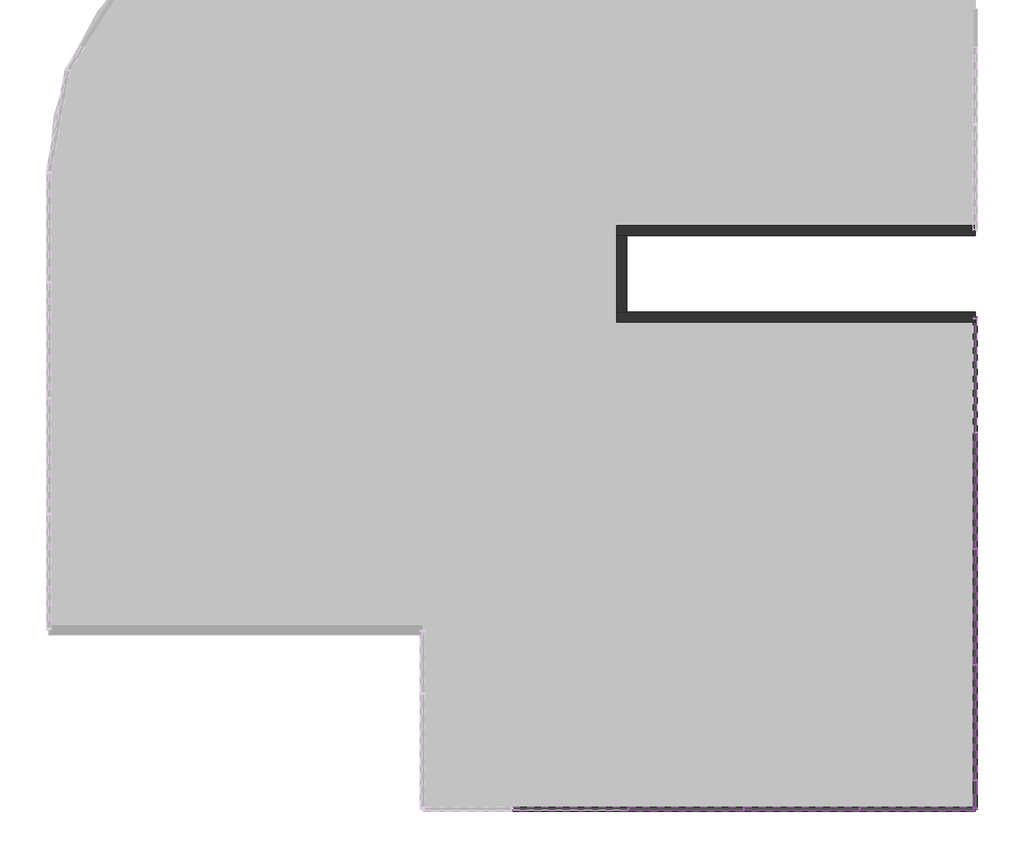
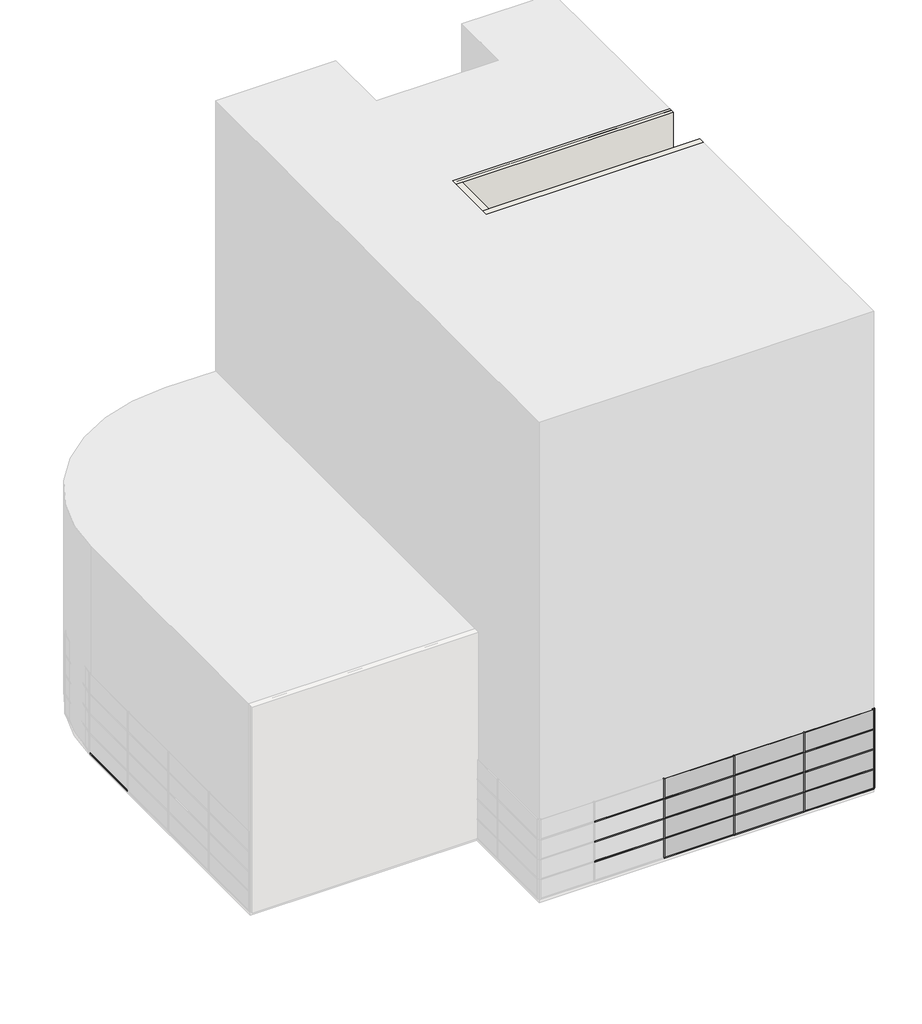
# One storey, part 2 of 4: 75 members, 32 plates, 3 walls.
"""IFC4 building model written with IfcOpenShell, lengths in millimetres."""

from ifc_helpers import new_model, si_unit, origin, origin_with_axes, place, context, project, spatial, polyline, outline, extrude, faceted_brep, transform, mapped, element, save
from components import rectangular_mullion_50_x_150mm_d99dc9be, rectangular_mullion_50_x_150mm_182bfbd5, rectangular_mullion_50_x_150mm_402ab136, rectangular_mullion_50_x_150mm_6588f46c, rectangular_mullion_50_x_150mm_a037c29c, rectangular_mullion_50_x_150mm_c2546fd4, rectangular_mullion_50_x_150mm_116cff39, rectangular_mullion_50_x_150mm_a91aaa2b, rectangular_mullion_50_x_150mm_a5a25251, system_panel_glazed_ecbc047f, system_panel_glazed_0d1816dc, system_panel_glazed_8e9402eb, system_panel_glazed_89ac83a7, system_panel_glazed_88115445, system_panel_glazed_8c18451d

model = new_model("IFC4")

# Units and contexts
model_context = context("Model", 3, world=origin())
ifc_project = project(units=[si_unit("LENGTHUNIT", "METRE", prefix="MILLI")], contexts=[model_context])

# Site, building, storey
site = spatial("IfcSite", under=ifc_project)
building = spatial("IfcBuilding", under=site)
storey = spatial("IfcBuildingStorey", under=building, Name="Suteren", Elevation=0.0)

# Members
placement = place(None, origin())
rectangular_mullion_50_x_150mm_shape = rectangular_mullion_50_x_150mm_d99dc9be(model_context)
element("IfcMember", 1, ObjectType="Rectangular Mullion : 50 x 150mm", at=placement, inside=storey, context=model_context, shape_type="MappedRepresentation", body=[
    mapped(rectangular_mullion_50_x_150mm_shape, transform((13503.2660975, -10624.0160434, 2400.0), x_axis=(0.0, -1.0, 0.0), y_axis=(1.0, 0.0, 0.0), z_axis=(0.0, 0.0, 1.0))),
])
element("IfcMember", 2, ObjectType="Rectangular Mullion : 50 x 150mm", at=placement, inside=storey, context=model_context, shape_type="MappedRepresentation", body=[
    mapped(rectangular_mullion_50_x_150mm_shape, transform((13503.2660975, -10624.0160434, 3600.0), x_axis=(0.0, -1.0, 0.0), y_axis=(1.0, 0.0, 0.0), z_axis=(0.0, 0.0, 1.0))),
])
element("IfcMember", 3, ObjectType="Rectangular Mullion : 50 x 150mm", at=placement, inside=storey, context=model_context, shape_type="MappedRepresentation", body=[
    mapped(rectangular_mullion_50_x_150mm_shape, transform((13503.2660975, -10624.0160434, 4800.0), x_axis=(0.0, -1.0, 0.0), y_axis=(1.0, 0.0, 0.0), z_axis=(0.0, 0.0, 1.0))),
])
element("IfcMember", 4, ObjectType="Rectangular Mullion : 50 x 150mm", at=placement, inside=storey, context=model_context, shape_type="MappedRepresentation", body=[
    mapped(rectangular_mullion_50_x_150mm_shape, transform((13503.2660975, -14624.0160434, 2400.0), x_axis=(0.0, -1.0, 0.0), y_axis=(1.0, 0.0, 0.0), z_axis=(0.0, 0.0, 1.0))),
])
element("IfcMember", 5, ObjectType="Rectangular Mullion : 50 x 150mm", at=placement, inside=storey, context=model_context, shape_type="MappedRepresentation", body=[
    mapped(rectangular_mullion_50_x_150mm_shape, transform((13503.2660975, -14624.0160434, 3600.0), x_axis=(0.0, -1.0, 0.0), y_axis=(1.0, 0.0, 0.0), z_axis=(0.0, 0.0, 1.0))),
])
element("IfcMember", 6, ObjectType="Rectangular Mullion : 50 x 150mm", at=placement, inside=storey, context=model_context, shape_type="MappedRepresentation", body=[
    mapped(rectangular_mullion_50_x_150mm_shape, transform((13503.2660975, -14624.0160434, 4800.0), x_axis=(0.0, -1.0, 0.0), y_axis=(1.0, 0.0, 0.0), z_axis=(0.0, 0.0, 1.0))),
])
element("IfcMember", 7, ObjectType="Rectangular Mullion : 50 x 150mm", at=placement, inside=storey, context=model_context, shape_type="MappedRepresentation", body=[
    mapped(rectangular_mullion_50_x_150mm_shape, transform((13503.2660975, -18624.0160434, 2400.0), x_axis=(0.0, -1.0, 0.0), y_axis=(1.0, 0.0, 0.0), z_axis=(0.0, 0.0, 1.0))),
])
element("IfcMember", 8, ObjectType="Rectangular Mullion : 50 x 150mm", at=placement, inside=storey, context=model_context, shape_type="MappedRepresentation", body=[
    mapped(rectangular_mullion_50_x_150mm_shape, transform((13503.2660975, -18624.0160434, 3600.0), x_axis=(0.0, -1.0, 0.0), y_axis=(1.0, 0.0, 0.0), z_axis=(0.0, 0.0, 1.0))),
])
element("IfcMember", 9, ObjectType="Rectangular Mullion : 50 x 150mm", at=placement, inside=storey, context=model_context, shape_type="MappedRepresentation", body=[
    mapped(rectangular_mullion_50_x_150mm_shape, transform((13503.2660975, -18624.0160434, 4800.0), x_axis=(0.0, -1.0, 0.0), y_axis=(1.0, 0.0, 0.0), z_axis=(0.0, 0.0, 1.0))),
])
element("IfcMember", 10, ObjectType="Rectangular Mullion : 50 x 150mm", at=placement, inside=storey, context=model_context, shape_type="MappedRepresentation", body=[
    mapped(rectangular_mullion_50_x_150mm_shape, transform((13503.2660975, -22624.0160434, 2400.0), x_axis=(0.0, -1.0, 0.0), y_axis=(1.0, 0.0, 0.0), z_axis=(0.0, 0.0, 1.0))),
])
element("IfcMember", 11, ObjectType="Rectangular Mullion : 50 x 150mm", at=placement, inside=storey, context=model_context, shape_type="MappedRepresentation", body=[
    mapped(rectangular_mullion_50_x_150mm_shape, transform((13503.2660975, -22624.0160434, 3600.0), x_axis=(0.0, -1.0, 0.0), y_axis=(1.0, 0.0, 0.0), z_axis=(0.0, 0.0, 1.0))),
])
element("IfcMember", 12, ObjectType="Rectangular Mullion : 50 x 150mm", at=placement, inside=storey, context=model_context, shape_type="MappedRepresentation", body=[
    mapped(rectangular_mullion_50_x_150mm_shape, transform((13503.2660975, -22624.0160434, 4800.0), x_axis=(0.0, -1.0, 0.0), y_axis=(1.0, 0.0, 0.0), z_axis=(0.0, 0.0, 1.0))),
])
element("IfcMember", 13, ObjectType="Rectangular Mullion : 50 x 150mm", at=placement, inside=storey, context=model_context, shape_type="MappedRepresentation", body=[
    mapped(rectangular_mullion_50_x_150mm_shape, transform((9503.2660975, -23624.0160434, 2400.0), x_axis=(-1.0, 0.0, 0.0), y_axis=(0.0, -1.0, 0.0), z_axis=(0.0, 0.0, 1.0))),
])
element("IfcMember", 14, ObjectType="Rectangular Mullion : 50 x 150mm", at=placement, inside=storey, context=model_context, shape_type="MappedRepresentation", body=[
    mapped(rectangular_mullion_50_x_150mm_shape, transform((9503.2660975, -23624.0160434, 3600.0), x_axis=(-1.0, 0.0, 0.0), y_axis=(0.0, -1.0, 0.0), z_axis=(0.0, 0.0, 1.0))),
])
element("IfcMember", 15, ObjectType="Rectangular Mullion : 50 x 150mm", at=placement, inside=storey, context=model_context, shape_type="MappedRepresentation", body=[
    mapped(rectangular_mullion_50_x_150mm_shape, transform((9503.2660975, -23624.0160434, 4800.0), x_axis=(-1.0, 0.0, 0.0), y_axis=(0.0, -1.0, 0.0), z_axis=(0.0, 0.0, 1.0))),
])
element("IfcMember", 16, ObjectType="Rectangular Mullion : 50 x 150mm", at=placement, inside=storey, context=model_context, shape_type="MappedRepresentation", body=[
    mapped(rectangular_mullion_50_x_150mm_shape, transform((5503.2660975, -23624.0160434, 2400.0), x_axis=(-1.0, 0.0, 0.0), y_axis=(0.0, -1.0, 0.0), z_axis=(0.0, 0.0, 1.0))),
])
element("IfcMember", 17, ObjectType="Rectangular Mullion : 50 x 150mm", at=placement, inside=storey, context=model_context, shape_type="MappedRepresentation", body=[
    mapped(rectangular_mullion_50_x_150mm_shape, transform((5503.2660975, -23624.0160434, 3600.0), x_axis=(-1.0, 0.0, 0.0), y_axis=(0.0, -1.0, 0.0), z_axis=(0.0, 0.0, 1.0))),
])
element("IfcMember", 18, ObjectType="Rectangular Mullion : 50 x 150mm", at=placement, inside=storey, context=model_context, shape_type="MappedRepresentation", body=[
    mapped(rectangular_mullion_50_x_150mm_shape, transform((5503.2660975, -23624.0160434, 4800.0), x_axis=(-1.0, 0.0, 0.0), y_axis=(0.0, -1.0, 0.0), z_axis=(0.0, 0.0, 1.0))),
])
element("IfcMember", 19, ObjectType="Rectangular Mullion : 50 x 150mm", at=placement, inside=storey, context=model_context, shape_type="MappedRepresentation", body=[
    mapped(rectangular_mullion_50_x_150mm_shape, transform((1503.2660975, -23624.0160434, 2400.0), x_axis=(-1.0, 0.0, 0.0), y_axis=(0.0, -1.0, 0.0), z_axis=(0.0, 0.0, 1.0))),
])
element("IfcMember", 20, ObjectType="Rectangular Mullion : 50 x 150mm", at=placement, inside=storey, context=model_context, shape_type="MappedRepresentation", body=[
    mapped(rectangular_mullion_50_x_150mm_shape, transform((1503.2660975, -23624.0160434, 3600.0), x_axis=(-1.0, 0.0, 0.0), y_axis=(0.0, -1.0, 0.0), z_axis=(0.0, 0.0, 1.0))),
])
element("IfcMember", 21, ObjectType="Rectangular Mullion : 50 x 150mm", at=placement, inside=storey, context=model_context, shape_type="MappedRepresentation", body=[
    mapped(rectangular_mullion_50_x_150mm_shape, transform((1503.2660975, -23624.0160434, 4800.0), x_axis=(-1.0, 0.0, 0.0), y_axis=(0.0, -1.0, 0.0), z_axis=(0.0, 0.0, 1.0))),
])
element("IfcMember", 22, ObjectType="Rectangular Mullion : 50 x 150mm", at=placement, inside=storey, context=model_context, shape_type="MappedRepresentation", body=[
    mapped(rectangular_mullion_50_x_150mm_shape, transform((13503.2660975, -10624.0160434, 1200.0), x_axis=(0.0, -1.0, 0.0), y_axis=(1.0, 0.0, 0.0), z_axis=(0.0, 0.0, 1.0))),
])
element("IfcMember", 23, ObjectType="Rectangular Mullion : 50 x 150mm", at=placement, inside=storey, context=model_context, shape_type="MappedRepresentation", body=[
    mapped(rectangular_mullion_50_x_150mm_shape, transform((13503.2660975, -14624.0160434, 1200.0), x_axis=(0.0, -1.0, 0.0), y_axis=(1.0, 0.0, 0.0), z_axis=(0.0, 0.0, 1.0))),
])
element("IfcMember", 24, ObjectType="Rectangular Mullion : 50 x 150mm", at=placement, inside=storey, context=model_context, shape_type="MappedRepresentation", body=[
    mapped(rectangular_mullion_50_x_150mm_shape, transform((13503.2660975, -18624.0160434, 1200.0), x_axis=(0.0, -1.0, 0.0), y_axis=(1.0, 0.0, 0.0), z_axis=(0.0, 0.0, 1.0))),
])
element("IfcMember", 25, ObjectType="Rectangular Mullion : 50 x 150mm", at=placement, inside=storey, context=model_context, shape_type="MappedRepresentation", body=[
    mapped(rectangular_mullion_50_x_150mm_shape, transform((13503.2660975, -22624.0160434, 1200.0), x_axis=(0.0, -1.0, 0.0), y_axis=(1.0, 0.0, 0.0), z_axis=(0.0, 0.0, 1.0))),
])
element("IfcMember", 26, ObjectType="Rectangular Mullion : 50 x 150mm", at=placement, inside=storey, context=model_context, shape_type="MappedRepresentation", body=[
    mapped(rectangular_mullion_50_x_150mm_shape, transform((9503.2660975, -23624.0160434, 1200.0), x_axis=(-1.0, 0.0, 0.0), y_axis=(0.0, -1.0, 0.0), z_axis=(0.0, 0.0, 1.0))),
])
element("IfcMember", 27, ObjectType="Rectangular Mullion : 50 x 150mm", at=placement, inside=storey, context=model_context, shape_type="MappedRepresentation", body=[
    mapped(rectangular_mullion_50_x_150mm_shape, transform((5503.2660975, -23624.0160434, 1200.0), x_axis=(-1.0, 0.0, 0.0), y_axis=(0.0, -1.0, 0.0), z_axis=(0.0, 0.0, 1.0))),
])
element("IfcMember", 28, ObjectType="Rectangular Mullion : 50 x 150mm", at=placement, inside=storey, context=model_context, shape_type="MappedRepresentation", body=[
    mapped(rectangular_mullion_50_x_150mm_shape, transform((1503.2660975, -23624.0160434, 1200.0), x_axis=(-1.0, 0.0, 0.0), y_axis=(0.0, -1.0, 0.0), z_axis=(0.0, 0.0, 1.0))),
])
rectangular_mullion_50_x_150mm_2_shape = rectangular_mullion_50_x_150mm_182bfbd5(model_context)
element("IfcMember", 29, ObjectType="Rectangular Mullion : 50 x 150mm", at=placement, inside=storey, context=model_context, shape_type="MappedRepresentation", body=[
    mapped(rectangular_mullion_50_x_150mm_2_shape, transform((13503.2660975, -14599.0160434, 0.0), x_axis=(0.0, 0.0, -1.0), y_axis=(1.0, 0.0, 0.0), z_axis=(0.0, -1.0, 0.0))),
])
element("IfcMember", 30, ObjectType="Rectangular Mullion : 50 x 150mm", at=placement, inside=storey, context=model_context, shape_type="MappedRepresentation", body=[
    mapped(rectangular_mullion_50_x_150mm_2_shape, transform((13503.2660975, -18599.0160434, 0.0), x_axis=(0.0, 0.0, -1.0), y_axis=(1.0, 0.0, 0.0), z_axis=(0.0, -1.0, 0.0))),
])
element("IfcMember", 31, ObjectType="Rectangular Mullion : 50 x 150mm", at=placement, inside=storey, context=model_context, shape_type="MappedRepresentation", body=[
    mapped(rectangular_mullion_50_x_150mm_2_shape, transform((13503.2660975, -22599.0160434, 0.0), x_axis=(0.0, 0.0, -1.0), y_axis=(1.0, 0.0, 0.0), z_axis=(0.0, -1.0, 0.0))),
])
element("IfcMember", 32, ObjectType="Rectangular Mullion : 50 x 150mm", at=placement, inside=storey, context=model_context, shape_type="MappedRepresentation", body=[
    mapped(rectangular_mullion_50_x_150mm_2_shape, transform((5528.2660975, -23624.0160434, 0.0), x_axis=(0.0, 0.0, -1.0), y_axis=(0.0, -1.0, 0.0), z_axis=(-1.0, 0.0, 0.0))),
])
element("IfcMember", 33, ObjectType="Rectangular Mullion : 50 x 150mm", at=placement, inside=storey, context=model_context, shape_type="MappedRepresentation", body=[
    mapped(rectangular_mullion_50_x_150mm_2_shape, transform((1528.2660975, -23624.0160434, 0.0), x_axis=(0.0, 0.0, -1.0), y_axis=(0.0, -1.0, 0.0), z_axis=(-1.0, 0.0, 0.0))),
])
rectangular_mullion_50_x_150mm_3_shape = rectangular_mullion_50_x_150mm_402ab136(model_context)
element("IfcMember", 34, ObjectType="Rectangular Mullion : 50 x 150mm", at=placement, inside=storey, context=model_context, shape_type="MappedRepresentation", body=[
    mapped(rectangular_mullion_50_x_150mm_3_shape, transform((13503.2660975, -10599.0160434, 0.0), x_axis=(0.0, 0.0, -1.0), y_axis=(1.0, 0.0, 0.0), z_axis=(0.0, -1.0, 0.0))),
])
element("IfcMember", 35, ObjectType="Rectangular Mullion : 50 x 150mm", at=placement, inside=storey, context=model_context, shape_type="MappedRepresentation", body=[
    mapped(rectangular_mullion_50_x_150mm_3_shape, transform((9528.2660975, -23624.0160434, 0.0), x_axis=(0.0, 0.0, -1.0), y_axis=(0.0, -1.0, 0.0), z_axis=(-1.0, 0.0, 0.0))),
])
rectangular_mullion_50_x_150mm_4_shape = rectangular_mullion_50_x_150mm_6588f46c(model_context)
element("IfcMember", 36, ObjectType="Rectangular Mullion : 50 x 150mm", at=placement, inside=storey, context=model_context, shape_type="MappedRepresentation", body=[
    mapped(rectangular_mullion_50_x_150mm_4_shape, transform((13503.2660975, -23624.0160434, 2400.0), x_axis=(0.0, -1.0, 0.0), y_axis=(1.0, 0.0, 0.0), z_axis=(0.0, 0.0, 1.0))),
])
element("IfcMember", 37, ObjectType="Rectangular Mullion : 50 x 150mm", at=placement, inside=storey, context=model_context, shape_type="MappedRepresentation", body=[
    mapped(rectangular_mullion_50_x_150mm_4_shape, transform((13503.2660975, -23624.0160434, 3600.0), x_axis=(0.0, -1.0, 0.0), y_axis=(1.0, 0.0, 0.0), z_axis=(0.0, 0.0, 1.0))),
])
element("IfcMember", 38, ObjectType="Rectangular Mullion : 50 x 150mm", at=placement, inside=storey, context=model_context, shape_type="MappedRepresentation", body=[
    mapped(rectangular_mullion_50_x_150mm_4_shape, transform((13503.2660975, -23624.0160434, 4800.0), x_axis=(0.0, -1.0, 0.0), y_axis=(1.0, 0.0, 0.0), z_axis=(0.0, 0.0, 1.0))),
])
element("IfcMember", 39, ObjectType="Rectangular Mullion : 50 x 150mm", at=placement, inside=storey, context=model_context, shape_type="MappedRepresentation", body=[
    mapped(rectangular_mullion_50_x_150mm_4_shape, transform((13503.2660975, -23624.0160434, 1200.0), x_axis=(0.0, -1.0, 0.0), y_axis=(1.0, 0.0, 0.0), z_axis=(0.0, 0.0, 1.0))),
])
rectangular_mullion_50_x_150mm_5_shape = rectangular_mullion_50_x_150mm_a037c29c(model_context)
element("IfcMember", 40, ObjectType="Rectangular Mullion : 50 x 150mm", at=placement, inside=storey, context=model_context, shape_type="MappedRepresentation", body=[
    mapped(rectangular_mullion_50_x_150mm_5_shape, transform((13503.2660975, -14649.0160434, 1200.0), x_axis=(0.0, 0.0, 1.0), y_axis=(1.0, 0.0, 0.0), z_axis=(0.0, 1.0, 0.0))),
])
element("IfcMember", 41, ObjectType="Rectangular Mullion : 50 x 150mm", at=placement, inside=storey, context=model_context, shape_type="MappedRepresentation", body=[
    mapped(rectangular_mullion_50_x_150mm_5_shape, transform((13503.2660975, -10649.0160434, 1200.0), x_axis=(0.0, 0.0, 1.0), y_axis=(1.0, 0.0, 0.0), z_axis=(0.0, 1.0, 0.0))),
])
element("IfcMember", 42, ObjectType="Rectangular Mullion : 50 x 150mm", at=placement, inside=storey, context=model_context, shape_type="MappedRepresentation", body=[
    mapped(rectangular_mullion_50_x_150mm_5_shape, transform((13503.2660975, -18649.0160434, 3600.0), x_axis=(0.0, 0.0, 1.0), y_axis=(1.0, 0.0, 0.0), z_axis=(0.0, 1.0, 0.0))),
])
element("IfcMember", 43, ObjectType="Rectangular Mullion : 50 x 150mm", at=placement, inside=storey, context=model_context, shape_type="MappedRepresentation", body=[
    mapped(rectangular_mullion_50_x_150mm_5_shape, transform((13503.2660975, -18649.0160434, 1200.0), x_axis=(0.0, 0.0, 1.0), y_axis=(1.0, 0.0, 0.0), z_axis=(0.0, 1.0, 0.0))),
])
element("IfcMember", 44, ObjectType="Rectangular Mullion : 50 x 150mm", at=placement, inside=storey, context=model_context, shape_type="MappedRepresentation", body=[
    mapped(rectangular_mullion_50_x_150mm_5_shape, transform((13503.2660975, -10649.0160434, 2400.0), x_axis=(0.0, 0.0, 1.0), y_axis=(1.0, 0.0, 0.0), z_axis=(0.0, 1.0, 0.0))),
])
element("IfcMember", 45, ObjectType="Rectangular Mullion : 50 x 150mm", at=placement, inside=storey, context=model_context, shape_type="MappedRepresentation", body=[
    mapped(rectangular_mullion_50_x_150mm_5_shape, transform((13503.2660975, -14649.0160434, 2400.0), x_axis=(0.0, 0.0, 1.0), y_axis=(1.0, 0.0, 0.0), z_axis=(0.0, 1.0, 0.0))),
])
element("IfcMember", 46, ObjectType="Rectangular Mullion : 50 x 150mm", at=placement, inside=storey, context=model_context, shape_type="MappedRepresentation", body=[
    mapped(rectangular_mullion_50_x_150mm_5_shape, transform((13503.2660975, -18649.0160434, 2400.0), x_axis=(0.0, 0.0, 1.0), y_axis=(1.0, 0.0, 0.0), z_axis=(0.0, 1.0, 0.0))),
])
element("IfcMember", 47, ObjectType="Rectangular Mullion : 50 x 150mm", at=placement, inside=storey, context=model_context, shape_type="MappedRepresentation", body=[
    mapped(rectangular_mullion_50_x_150mm_5_shape, transform((13503.2660975, -10649.0160434, 3600.0), x_axis=(0.0, 0.0, 1.0), y_axis=(1.0, 0.0, 0.0), z_axis=(0.0, 1.0, 0.0))),
])
element("IfcMember", 48, ObjectType="Rectangular Mullion : 50 x 150mm", at=placement, inside=storey, context=model_context, shape_type="MappedRepresentation", body=[
    mapped(rectangular_mullion_50_x_150mm_5_shape, transform((13503.2660975, -14649.0160434, 3600.0), x_axis=(0.0, 0.0, 1.0), y_axis=(1.0, 0.0, 0.0), z_axis=(0.0, 1.0, 0.0))),
])
element("IfcMember", 49, ObjectType="Rectangular Mullion : 50 x 150mm", at=placement, inside=storey, context=model_context, shape_type="MappedRepresentation", body=[
    mapped(rectangular_mullion_50_x_150mm_5_shape, transform((5478.2660975, -23624.0160434, 3600.0), x_axis=(0.0, 0.0, 1.0), y_axis=(0.0, -1.0, 0.0), z_axis=(1.0, 0.0, 0.0))),
])
element("IfcMember", 50, ObjectType="Rectangular Mullion : 50 x 150mm", at=placement, inside=storey, context=model_context, shape_type="MappedRepresentation", body=[
    mapped(rectangular_mullion_50_x_150mm_5_shape, transform((1478.2660975, -23624.0160434, 3600.0), x_axis=(0.0, 0.0, 1.0), y_axis=(0.0, -1.0, 0.0), z_axis=(1.0, 0.0, 0.0))),
])
element("IfcMember", 51, ObjectType="Rectangular Mullion : 50 x 150mm", at=placement, inside=storey, context=model_context, shape_type="MappedRepresentation", body=[
    mapped(rectangular_mullion_50_x_150mm_5_shape, transform((5478.2660975, -23624.0160434, 1200.0), x_axis=(0.0, 0.0, 1.0), y_axis=(0.0, -1.0, 0.0), z_axis=(1.0, 0.0, 0.0))),
])
element("IfcMember", 52, ObjectType="Rectangular Mullion : 50 x 150mm", at=placement, inside=storey, context=model_context, shape_type="MappedRepresentation", body=[
    mapped(rectangular_mullion_50_x_150mm_5_shape, transform((1478.2660975, -23624.0160434, 1200.0), x_axis=(0.0, 0.0, 1.0), y_axis=(0.0, -1.0, 0.0), z_axis=(1.0, 0.0, 0.0))),
])
element("IfcMember", 53, ObjectType="Rectangular Mullion : 50 x 150mm", at=placement, inside=storey, context=model_context, shape_type="MappedRepresentation", body=[
    mapped(rectangular_mullion_50_x_150mm_5_shape, transform((9478.2660975, -23624.0160434, 2400.0), x_axis=(0.0, 0.0, 1.0), y_axis=(0.0, -1.0, 0.0), z_axis=(1.0, 0.0, 0.0))),
])
element("IfcMember", 54, ObjectType="Rectangular Mullion : 50 x 150mm", at=placement, inside=storey, context=model_context, shape_type="MappedRepresentation", body=[
    mapped(rectangular_mullion_50_x_150mm_5_shape, transform((5478.2660975, -23624.0160434, 2400.0), x_axis=(0.0, 0.0, 1.0), y_axis=(0.0, -1.0, 0.0), z_axis=(1.0, 0.0, 0.0))),
])
element("IfcMember", 55, ObjectType="Rectangular Mullion : 50 x 150mm", at=placement, inside=storey, context=model_context, shape_type="MappedRepresentation", body=[
    mapped(rectangular_mullion_50_x_150mm_5_shape, transform((1478.2660975, -23624.0160434, 2400.0), x_axis=(0.0, 0.0, 1.0), y_axis=(0.0, -1.0, 0.0), z_axis=(1.0, 0.0, 0.0))),
])
element("IfcMember", 56, ObjectType="Rectangular Mullion : 50 x 150mm", at=placement, inside=storey, context=model_context, shape_type="MappedRepresentation", body=[
    mapped(rectangular_mullion_50_x_150mm_5_shape, transform((9478.2660975, -23624.0160434, 3600.0), x_axis=(0.0, 0.0, 1.0), y_axis=(0.0, -1.0, 0.0), z_axis=(1.0, 0.0, 0.0))),
])
element("IfcMember", 57, ObjectType="Rectangular Mullion : 50 x 150mm", at=placement, inside=storey, context=model_context, shape_type="MappedRepresentation", body=[
    mapped(rectangular_mullion_50_x_150mm_5_shape, transform((9478.2660975, -23624.0160434, 1200.0), x_axis=(0.0, 0.0, 1.0), y_axis=(0.0, -1.0, 0.0), z_axis=(1.0, 0.0, 0.0))),
])
rectangular_mullion_50_x_150mm_6_shape = rectangular_mullion_50_x_150mm_c2546fd4(model_context)
element("IfcMember", 58, ObjectType="Rectangular Mullion : 50 x 150mm", at=placement, inside=storey, context=model_context, shape_type="MappedRepresentation", body=[
    mapped(rectangular_mullion_50_x_150mm_6_shape, transform((13503.2660975, -6674.0160434, 1200.0), x_axis=(0.0, 0.0, 1.0), y_axis=(1.0, 0.0, 0.0), z_axis=(0.0, 1.0, 0.0))),
])
element("IfcMember", 59, ObjectType="Rectangular Mullion : 50 x 150mm", at=placement, inside=storey, context=model_context, shape_type="MappedRepresentation", body=[
    mapped(rectangular_mullion_50_x_150mm_6_shape, transform((13503.2660975, -6674.0160434, 2400.0), x_axis=(0.0, 0.0, 1.0), y_axis=(1.0, 0.0, 0.0), z_axis=(0.0, 1.0, 0.0))),
])
element("IfcMember", 60, ObjectType="Rectangular Mullion : 50 x 150mm", at=placement, inside=storey, context=model_context, shape_type="MappedRepresentation", body=[
    mapped(rectangular_mullion_50_x_150mm_6_shape, transform((13453.2660975, -23624.0160434, 2400.0), x_axis=(0.0, 0.0, 1.0), y_axis=(0.0, -1.0, 0.0), z_axis=(1.0, 0.0, 0.0))),
])
element("IfcMember", 61, ObjectType="Rectangular Mullion : 50 x 150mm", at=placement, inside=storey, context=model_context, shape_type="MappedRepresentation", body=[
    mapped(rectangular_mullion_50_x_150mm_6_shape, transform((13453.2660975, -23624.0160434, 3600.0), x_axis=(0.0, 0.0, 1.0), y_axis=(0.0, -1.0, 0.0), z_axis=(1.0, 0.0, 0.0))),
])
element("IfcMember", 62, ObjectType="Rectangular Mullion : 50 x 150mm", at=placement, inside=storey, context=model_context, shape_type="MappedRepresentation", body=[
    mapped(rectangular_mullion_50_x_150mm_6_shape, transform((13453.2660975, -23624.0160434, 1200.0), x_axis=(0.0, 0.0, 1.0), y_axis=(0.0, -1.0, 0.0), z_axis=(1.0, 0.0, 0.0))),
])
element("IfcMember", 63, ObjectType="Rectangular Mullion : 50 x 150mm", at=placement, inside=storey, context=model_context, shape_type="MappedRepresentation", body=[
    mapped(rectangular_mullion_50_x_150mm_4_shape, transform((13503.2660975, -6624.0160434, 1200.0), x_axis=(0.0, 1.0, 0.0), y_axis=(1.0, 0.0, 0.0), z_axis=(0.0, 0.0, -1.0))),
])
element("IfcMember", 64, ObjectType="Rectangular Mullion : 50 x 150mm", at=placement, inside=storey, context=model_context, shape_type="MappedRepresentation", body=[
    mapped(rectangular_mullion_50_x_150mm_4_shape, transform((13503.2660975, -6624.0160434, 2400.0), x_axis=(0.0, 1.0, 0.0), y_axis=(1.0, 0.0, 0.0), z_axis=(0.0, 0.0, -1.0))),
])
element("IfcMember", 65, ObjectType="Rectangular Mullion : 50 x 150mm", at=placement, inside=storey, context=model_context, shape_type="MappedRepresentation", body=[
    mapped(rectangular_mullion_50_x_150mm_4_shape, transform((13503.2660975, -6624.0160434, 3600.0), x_axis=(0.0, 1.0, 0.0), y_axis=(1.0, 0.0, 0.0), z_axis=(0.0, 0.0, -1.0))),
])
element("IfcMember", 66, ObjectType="Rectangular Mullion : 50 x 150mm", at=placement, inside=storey, context=model_context, shape_type="MappedRepresentation", body=[
    mapped(rectangular_mullion_50_x_150mm_4_shape, transform((13503.2660975, -23624.0160434, 1200.0), x_axis=(1.0, 0.0, 0.0), y_axis=(0.0, -1.0, 0.0), z_axis=(0.0, 0.0, -1.0))),
])
element("IfcMember", 67, ObjectType="Rectangular Mullion : 50 x 150mm", at=placement, inside=storey, context=model_context, shape_type="MappedRepresentation", body=[
    mapped(rectangular_mullion_50_x_150mm_4_shape, transform((13503.2660975, -23624.0160434, 2400.0), x_axis=(1.0, 0.0, 0.0), y_axis=(0.0, -1.0, 0.0), z_axis=(0.0, 0.0, -1.0))),
])
element("IfcMember", 68, ObjectType="Rectangular Mullion : 50 x 150mm", at=placement, inside=storey, context=model_context, shape_type="MappedRepresentation", body=[
    mapped(rectangular_mullion_50_x_150mm_4_shape, transform((13503.2660975, -23624.0160434, 3600.0), x_axis=(1.0, 0.0, 0.0), y_axis=(0.0, -1.0, 0.0), z_axis=(0.0, 0.0, -1.0))),
])
element("IfcMember", 69, ObjectType="Rectangular Mullion : 50 x 150mm", at=placement, inside=storey, context=model_context, shape_type="MappedRepresentation", body=[
    mapped(rectangular_mullion_50_x_150mm_4_shape, transform((13503.2660975, -6624.0160434, 0.0), x_axis=(0.0, 1.0, 0.0), y_axis=(1.0, 0.0, 0.0), z_axis=(0.0, 0.0, -1.0))),
])
element("IfcMember", 70, ObjectType="Rectangular Mullion : 50 x 150mm", at=placement, inside=storey, context=model_context, shape_type="MappedRepresentation", body=[
    mapped(rectangular_mullion_50_x_150mm_4_shape, transform((13503.2660975, -23624.0160434, 0.0), x_axis=(1.0, 0.0, 0.0), y_axis=(0.0, -1.0, 0.0), z_axis=(0.0, 0.0, -1.0))),
])
rectangular_mullion_50_x_150mm_7_shape = rectangular_mullion_50_x_150mm_116cff39(model_context)
element("IfcMember", 71, ObjectType="Rectangular Mullion : 50 x 150mm", at=placement, inside=storey, context=model_context, shape_type="MappedRepresentation", body=[
    mapped(rectangular_mullion_50_x_150mm_7_shape, transform((13503.2660975, -22649.0160434, 3600.0), x_axis=(0.0, 0.0, 1.0), y_axis=(1.0, 0.0, 0.0), z_axis=(0.0, 1.0, 0.0))),
])
element("IfcMember", 72, ObjectType="Rectangular Mullion : 50 x 150mm", at=placement, inside=storey, context=model_context, shape_type="MappedRepresentation", body=[
    mapped(rectangular_mullion_50_x_150mm_7_shape, transform((13503.2660975, -22649.0160434, 1200.0), x_axis=(0.0, 0.0, 1.0), y_axis=(1.0, 0.0, 0.0), z_axis=(0.0, 1.0, 0.0))),
])
element("IfcMember", 73, ObjectType="Rectangular Mullion : 50 x 150mm", at=placement, inside=storey, context=model_context, shape_type="MappedRepresentation", body=[
    mapped(rectangular_mullion_50_x_150mm_7_shape, transform((13503.2660975, -22649.0160434, 2400.0), x_axis=(0.0, 0.0, 1.0), y_axis=(1.0, 0.0, 0.0), z_axis=(0.0, 1.0, 0.0))),
])
rectangular_mullion_50_x_150mm_8_shape = rectangular_mullion_50_x_150mm_a91aaa2b(model_context)
element("IfcMember", 74, ObjectType="Rectangular Mullion : 50 x 150mm", at=placement, inside=storey, context=model_context, shape_type="MappedRepresentation", body=[
    mapped(rectangular_mullion_50_x_150mm_8_shape, transform((13503.2660975, -23574.0160434, 0.0), x_axis=(0.0, 0.0, -1.0), y_axis=(1.0, 0.0, 0.0), z_axis=(0.0, -1.0, 0.0))),
])
rectangular_mullion_50_x_150mm_9_shape = rectangular_mullion_50_x_150mm_a5a25251(model_context)
element("IfcMember", 75, ObjectType="Rectangular Mullion : 50 x 150mm", at=placement, inside=storey, context=model_context, shape_type="MappedRepresentation", body=[
    mapped(rectangular_mullion_50_x_150mm_9_shape, transform((-18496.7339025, -1674.0160434, 0.0), x_axis=(0.0, 0.0, -1.0), y_axis=(-1.0, 0.0, 0.0), z_axis=(0.0, 1.0, 0.0))),
])

# Plates
system_panel_glazed_shape = system_panel_glazed_ecbc047f(model_context)
element("IfcPlate", 76, ObjectType="System Panel : Glazed", at=placement, inside=storey, context=model_context, shape_type="MappedRepresentation", body=[
    mapped(system_panel_glazed_shape, transform((11490.7660975, -23624.0160434, 50.0), x_axis=(-1.0, 0.0, 0.0), y_axis=(0.0, -1.0, 0.0), z_axis=(0.0, 0.0, 1.0))),
])
element("IfcPlate", 77, ObjectType="System Panel : Glazed", at=placement, inside=storey, context=model_context, shape_type="MappedRepresentation", body=[
    mapped(system_panel_glazed_shape, transform((13503.2660975, -8636.5160434, 50.0), x_axis=(0.0, -1.0, 0.0), y_axis=(1.0, 0.0, 0.0), z_axis=(0.0, 0.0, 1.0))),
])
system_panel_glazed_2_shape = system_panel_glazed_0d1816dc(model_context)
element("IfcPlate", 78, ObjectType="System Panel : Glazed", at=placement, inside=storey, context=model_context, shape_type="MappedRepresentation", body=[
    mapped(system_panel_glazed_2_shape, transform((7503.2660975, -23624.0160434, 50.0), x_axis=(-1.0, 0.0, 0.0), y_axis=(0.0, -1.0, 0.0), z_axis=(0.0, 0.0, 1.0))),
])
element("IfcPlate", 79, ObjectType="System Panel : Glazed", at=placement, inside=storey, context=model_context, shape_type="MappedRepresentation", body=[
    mapped(system_panel_glazed_2_shape, transform((3503.2660975, -23624.0160434, 50.0), x_axis=(-1.0, 0.0, 0.0), y_axis=(0.0, -1.0, 0.0), z_axis=(0.0, 0.0, 1.0))),
])
element("IfcPlate", 80, ObjectType="System Panel : Glazed", at=placement, inside=storey, context=model_context, shape_type="MappedRepresentation", body=[
    mapped(system_panel_glazed_2_shape, transform((13503.2660975, -12624.0160434, 50.0), x_axis=(0.0, -1.0, 0.0), y_axis=(1.0, 0.0, 0.0), z_axis=(0.0, 0.0, 1.0))),
])
element("IfcPlate", 81, ObjectType="System Panel : Glazed", at=placement, inside=storey, context=model_context, shape_type="MappedRepresentation", body=[
    mapped(system_panel_glazed_2_shape, transform((13503.2660975, -16624.0160434, 50.0), x_axis=(0.0, -1.0, 0.0), y_axis=(1.0, 0.0, 0.0), z_axis=(0.0, 0.0, 1.0))),
])
element("IfcPlate", 82, ObjectType="System Panel : Glazed", at=placement, inside=storey, context=model_context, shape_type="MappedRepresentation", body=[
    mapped(system_panel_glazed_2_shape, transform((13503.2660975, -20624.0160434, 50.0), x_axis=(0.0, -1.0, 0.0), y_axis=(1.0, 0.0, 0.0), z_axis=(0.0, 0.0, 1.0))),
])
system_panel_glazed_3_shape = system_panel_glazed_8e9402eb(model_context)
element("IfcPlate", 83, ObjectType="System Panel : Glazed", at=placement, inside=storey, context=model_context, shape_type="MappedRepresentation", body=[
    mapped(system_panel_glazed_3_shape, transform((11490.7660975, -23624.0160434, 1225.0), x_axis=(-1.0, 0.0, 0.0), y_axis=(0.0, -1.0, 0.0), z_axis=(0.0, 0.0, 1.0))),
])
element("IfcPlate", 84, ObjectType="System Panel : Glazed", at=placement, inside=storey, context=model_context, shape_type="MappedRepresentation", body=[
    mapped(system_panel_glazed_3_shape, transform((11490.7660975, -23624.0160434, 2425.0), x_axis=(-1.0, 0.0, 0.0), y_axis=(0.0, -1.0, 0.0), z_axis=(0.0, 0.0, 1.0))),
])
element("IfcPlate", 85, ObjectType="System Panel : Glazed", at=placement, inside=storey, context=model_context, shape_type="MappedRepresentation", body=[
    mapped(system_panel_glazed_3_shape, transform((11490.7660975, -23624.0160434, 3625.0), x_axis=(-1.0, 0.0, 0.0), y_axis=(0.0, -1.0, 0.0), z_axis=(0.0, 0.0, 1.0))),
])
element("IfcPlate", 86, ObjectType="System Panel : Glazed", at=placement, inside=storey, context=model_context, shape_type="MappedRepresentation", body=[
    mapped(system_panel_glazed_3_shape, transform((13503.2660975, -8636.5160434, 1225.0), x_axis=(0.0, -1.0, 0.0), y_axis=(1.0, 0.0, 0.0), z_axis=(0.0, 0.0, 1.0))),
])
element("IfcPlate", 87, ObjectType="System Panel : Glazed", at=placement, inside=storey, context=model_context, shape_type="MappedRepresentation", body=[
    mapped(system_panel_glazed_3_shape, transform((13503.2660975, -8636.5160434, 2425.0), x_axis=(0.0, -1.0, 0.0), y_axis=(1.0, 0.0, 0.0), z_axis=(0.0, 0.0, 1.0))),
])
element("IfcPlate", 88, ObjectType="System Panel : Glazed", at=placement, inside=storey, context=model_context, shape_type="MappedRepresentation", body=[
    mapped(system_panel_glazed_3_shape, transform((13503.2660975, -8636.5160434, 3625.0), x_axis=(0.0, -1.0, 0.0), y_axis=(1.0, 0.0, 0.0), z_axis=(0.0, 0.0, 1.0))),
])
system_panel_glazed_4_shape = system_panel_glazed_89ac83a7(model_context)
element("IfcPlate", 89, ObjectType="System Panel : Glazed", at=placement, inside=storey, context=model_context, shape_type="MappedRepresentation", body=[
    mapped(system_panel_glazed_4_shape, transform((7503.2660975, -23624.0160434, 1225.0), x_axis=(-1.0, 0.0, 0.0), y_axis=(0.0, -1.0, 0.0), z_axis=(0.0, 0.0, 1.0))),
])
element("IfcPlate", 90, ObjectType="System Panel : Glazed", at=placement, inside=storey, context=model_context, shape_type="MappedRepresentation", body=[
    mapped(system_panel_glazed_4_shape, transform((3503.2660975, -23624.0160434, 1225.0), x_axis=(-1.0, 0.0, 0.0), y_axis=(0.0, -1.0, 0.0), z_axis=(0.0, 0.0, 1.0))),
])
element("IfcPlate", 91, ObjectType="System Panel : Glazed", at=placement, inside=storey, context=model_context, shape_type="MappedRepresentation", body=[
    mapped(system_panel_glazed_4_shape, transform((7503.2660975, -23624.0160434, 2425.0), x_axis=(-1.0, 0.0, 0.0), y_axis=(0.0, -1.0, 0.0), z_axis=(0.0, 0.0, 1.0))),
])
element("IfcPlate", 92, ObjectType="System Panel : Glazed", at=placement, inside=storey, context=model_context, shape_type="MappedRepresentation", body=[
    mapped(system_panel_glazed_4_shape, transform((3503.2660975, -23624.0160434, 2425.0), x_axis=(-1.0, 0.0, 0.0), y_axis=(0.0, -1.0, 0.0), z_axis=(0.0, 0.0, 1.0))),
])
element("IfcPlate", 93, ObjectType="System Panel : Glazed", at=placement, inside=storey, context=model_context, shape_type="MappedRepresentation", body=[
    mapped(system_panel_glazed_4_shape, transform((7503.2660975, -23624.0160434, 3625.0), x_axis=(-1.0, 0.0, 0.0), y_axis=(0.0, -1.0, 0.0), z_axis=(0.0, 0.0, 1.0))),
])
element("IfcPlate", 94, ObjectType="System Panel : Glazed", at=placement, inside=storey, context=model_context, shape_type="MappedRepresentation", body=[
    mapped(system_panel_glazed_4_shape, transform((3503.2660975, -23624.0160434, 3625.0), x_axis=(-1.0, 0.0, 0.0), y_axis=(0.0, -1.0, 0.0), z_axis=(0.0, 0.0, 1.0))),
])
element("IfcPlate", 95, ObjectType="System Panel : Glazed", at=placement, inside=storey, context=model_context, shape_type="MappedRepresentation", body=[
    mapped(system_panel_glazed_4_shape, transform((13503.2660975, -12624.0160434, 1225.0), x_axis=(0.0, -1.0, 0.0), y_axis=(1.0, 0.0, 0.0), z_axis=(0.0, 0.0, 1.0))),
])
element("IfcPlate", 96, ObjectType="System Panel : Glazed", at=placement, inside=storey, context=model_context, shape_type="MappedRepresentation", body=[
    mapped(system_panel_glazed_4_shape, transform((13503.2660975, -16624.0160434, 1225.0), x_axis=(0.0, -1.0, 0.0), y_axis=(1.0, 0.0, 0.0), z_axis=(0.0, 0.0, 1.0))),
])
element("IfcPlate", 97, ObjectType="System Panel : Glazed", at=placement, inside=storey, context=model_context, shape_type="MappedRepresentation", body=[
    mapped(system_panel_glazed_4_shape, transform((13503.2660975, -20624.0160434, 1225.0), x_axis=(0.0, -1.0, 0.0), y_axis=(1.0, 0.0, 0.0), z_axis=(0.0, 0.0, 1.0))),
])
element("IfcPlate", 98, ObjectType="System Panel : Glazed", at=placement, inside=storey, context=model_context, shape_type="MappedRepresentation", body=[
    mapped(system_panel_glazed_4_shape, transform((13503.2660975, -12624.0160434, 2425.0), x_axis=(0.0, -1.0, 0.0), y_axis=(1.0, 0.0, 0.0), z_axis=(0.0, 0.0, 1.0))),
])
element("IfcPlate", 99, ObjectType="System Panel : Glazed", at=placement, inside=storey, context=model_context, shape_type="MappedRepresentation", body=[
    mapped(system_panel_glazed_4_shape, transform((13503.2660975, -16624.0160434, 2425.0), x_axis=(0.0, -1.0, 0.0), y_axis=(1.0, 0.0, 0.0), z_axis=(0.0, 0.0, 1.0))),
])
element("IfcPlate", 100, ObjectType="System Panel : Glazed", at=placement, inside=storey, context=model_context, shape_type="MappedRepresentation", body=[
    mapped(system_panel_glazed_4_shape, transform((13503.2660975, -20624.0160434, 2425.0), x_axis=(0.0, -1.0, 0.0), y_axis=(1.0, 0.0, 0.0), z_axis=(0.0, 0.0, 1.0))),
])
element("IfcPlate", 101, ObjectType="System Panel : Glazed", at=placement, inside=storey, context=model_context, shape_type="MappedRepresentation", body=[
    mapped(system_panel_glazed_4_shape, transform((13503.2660975, -12624.0160434, 3625.0), x_axis=(0.0, -1.0, 0.0), y_axis=(1.0, 0.0, 0.0), z_axis=(0.0, 0.0, 1.0))),
])
element("IfcPlate", 102, ObjectType="System Panel : Glazed", at=placement, inside=storey, context=model_context, shape_type="MappedRepresentation", body=[
    mapped(system_panel_glazed_4_shape, transform((13503.2660975, -16624.0160434, 3625.0), x_axis=(0.0, -1.0, 0.0), y_axis=(1.0, 0.0, 0.0), z_axis=(0.0, 0.0, 1.0))),
])
element("IfcPlate", 103, ObjectType="System Panel : Glazed", at=placement, inside=storey, context=model_context, shape_type="MappedRepresentation", body=[
    mapped(system_panel_glazed_4_shape, transform((13503.2660975, -20624.0160434, 3625.0), x_axis=(0.0, -1.0, 0.0), y_axis=(1.0, 0.0, 0.0), z_axis=(0.0, 0.0, 1.0))),
])
system_panel_glazed_5_shape = system_panel_glazed_88115445(model_context)
element("IfcPlate", 104, ObjectType="System Panel : Glazed", at=placement, inside=storey, context=model_context, shape_type="MappedRepresentation", body=[
    mapped(system_panel_glazed_5_shape, transform((13503.2660975, -23111.5160434, 50.0), x_axis=(0.0, -1.0, 0.0), y_axis=(1.0, 0.0, 0.0), z_axis=(0.0, 0.0, 1.0))),
])
system_panel_glazed_6_shape = system_panel_glazed_8c18451d(model_context)
element("IfcPlate", 105, ObjectType="System Panel : Glazed", at=placement, inside=storey, context=model_context, shape_type="MappedRepresentation", body=[
    mapped(system_panel_glazed_6_shape, transform((13503.2660975, -23111.5160434, 1225.0), x_axis=(0.0, -1.0, 0.0), y_axis=(1.0, 0.0, 0.0), z_axis=(0.0, 0.0, 1.0))),
])
element("IfcPlate", 106, ObjectType="System Panel : Glazed", at=placement, inside=storey, context=model_context, shape_type="MappedRepresentation", body=[
    mapped(system_panel_glazed_6_shape, transform((13503.2660975, -23111.5160434, 2425.0), x_axis=(0.0, -1.0, 0.0), y_axis=(1.0, 0.0, 0.0), z_axis=(0.0, 0.0, 1.0))),
])
element("IfcPlate", 107, ObjectType="System Panel : Glazed", at=placement, inside=storey, context=model_context, shape_type="MappedRepresentation", body=[
    mapped(system_panel_glazed_6_shape, transform((13503.2660975, -23111.5160434, 3625.0), x_axis=(0.0, -1.0, 0.0), y_axis=(1.0, 0.0, 0.0), z_axis=(0.0, 0.0, 1.0))),
])

# Walls
element("IfcWall", 108, ObjectType="Exterior - Brick on Mtl. Stud", at=placement, inside=storey, context=model_context, shape_type="Brep", body=[
    faceted_brep([(13503.2660975, -6439.0160434, 0.0), (1463.419219, -6439.0160434, 0.0), (1113.419219, -6439.0160434, 0.0), (1113.419219, -6439.0160434, 28773.2453384), (1463.419219, -6439.0160434, 28773.2453384), (13503.2660975, -6439.0160434, 28773.2453384), (13503.2660975, -6789.0160434, 0.0), (13503.2660975, -6789.0160434, 28773.2453384), (1113.419219, -6789.0160434, 28773.2453384), (1113.419219, -6789.0160434, 0.0)], [[[0, 1, 2, 3, 4, 5]], [[6, 7, 8, 9]], [[2, 1, 0, 6, 9]], [[5, 4, 3, 8, 7]], [[0, 5, 7, 6]], [[3, 2, 9, 8]]]),
])
element("IfcWall", 109, ObjectType="Exterior - Brick on Mtl. Stud", at=placement, inside=storey, context=model_context, shape_type="Brep", body=[
    faceted_brep([(1113.419219, -3809.0160434, 0.0), (1463.419219, -3809.0160434, 0.0), (13503.2660975, -3809.0160434, 0.0), (13503.2660975, -3809.0160434, 28773.2453384), (1463.419219, -3809.0160434, 28773.2453384), (1113.419219, -3809.0160434, 28773.2453384), (1113.419219, -3459.0160434, 0.0), (1113.419219, -3459.0160434, 28773.2453384), (13503.2660975, -3459.0160434, 28773.2453384), (13503.2660975, -3459.0160434, 0.0)], [[[0, 1, 2, 3, 4, 5]], [[6, 7, 8, 9]], [[2, 1, 0, 6, 9]], [[3, 2, 9, 8]], [[5, 4, 3, 8, 7]], [[0, 5, 7, 6]]]),
])
element("IfcWall", 110, ObjectType="Exterior - Brick on Mtl. Stud", at=placement, inside=storey, context=model_context, shape_type="SweptSolid", body=[
    extrude(outline(polyline([(1463.419219, -3809.0160434), (1463.419219, -6439.0160434), (1113.419219, -6439.0160434), (1113.419219, -3809.0160434), (1463.419219, -3809.0160434)])), origin_with_axes(), (0.0, 0.0, 1.0), 28773.2453384),
])

save(model, "model.ifc")
